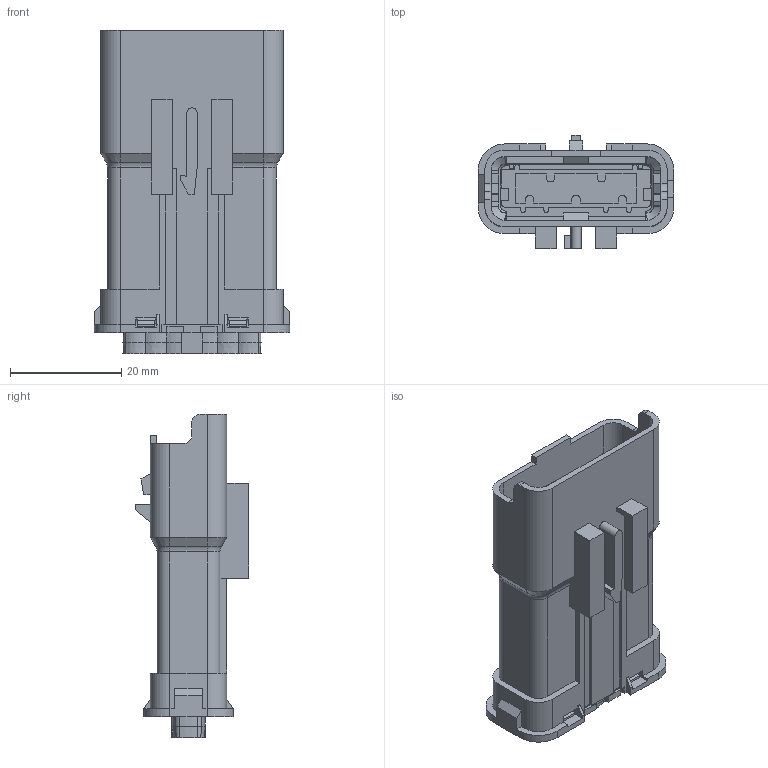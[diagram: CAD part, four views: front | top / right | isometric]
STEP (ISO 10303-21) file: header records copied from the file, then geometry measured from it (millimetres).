
FILE_DESCRIPTION(/* description */ (''),/* implementation_level */ '2;1');
FILE_NAME(/* name */ '33511739-ENV10_01-CONN.stp',/* time_stamp */ '2020-02-21T18:20:41+06:00',/* author */ (''),/* organization */ (''),/* preprocessor_version */ 'ST-DEVELOPER v16',/* originating_system */ 'SIEMENS PLM Software NX 11.0',/* authorisation */ '');
FILE_SCHEMA (('AP203_CONFIGURATION_CONTROLLED_3D_DESIGN_OF_MECHANICAL_PARTS_AND_ASSEMBLIES_MIM_LF { 1 0 10303 403 2 1 2}'));
Length unit declared in the file: millimetre
Products named in the file (1): hjcv7050C10C1vf2
Bounding box: 35.13 x 20.35 x 58.05 mm (x, y, z)
Volume: 15244.4 mm3; surface area: 9038.8 mm2
Topology: 1 solids, 1 shells, 506 faces, 1453 edges, 943 vertices
Faces by surface type: plane 377, cylinder 79, cone 26, torus 20, bspline 4
Entity records: 17325 total; most frequent: CARTESIAN_POINT 3905, ORIENTED_EDGE 2906, DIRECTION 2620, EDGE_CURVE 1453, LINE 1170, VECTOR 1170, VERTEX_POINT 943, AXIS2_PLACEMENT_3D 725
